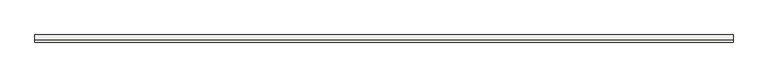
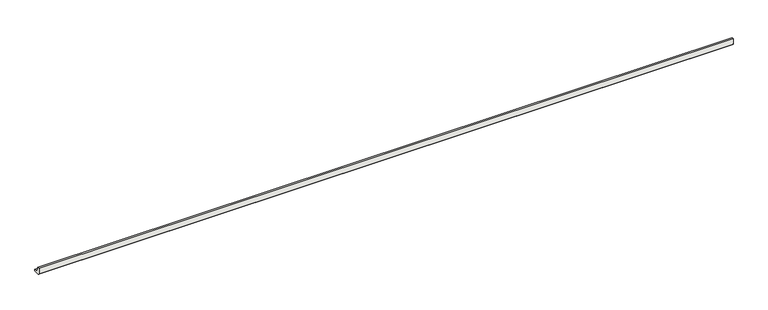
"""IFC4 building model written with IfcOpenShell, lengths in millimetres: slab geometry, ROSA GRES_188 : Pieza 188_Serena_Ocra_Anti-Slip."""

from ifc_helpers import new_model, si_unit, point, frame, frame_2d, origin, place, context, project, spatial, polyline, circle_curve, trimmed, segment, composite_curve, outline, extrude, source, transform, mapped, element, save


def slab_74978fe9(model_context):
    return source(origin(), model_context, "Body", "SweptSolid", [
        extrude(outline(composite_curve([segment(polyline([(0.0, 8.7114978), (0.0, 40.0), (9.9734114, 40.0)]), True, "CONTINUOUS"), segment(trimmed(circle_curve(frame_2d((39.9955547, 39.9955547)), 30.0221435), [point((9.9734114, 40.0))], [point((40.0, 9.9734114))], True, "CARTESIAN"), True, "CONTINUOUS"), segment(polyline([(40.0, 9.9734114), (40.0, 0.0), (8.7114978, 0.0), (0.0, 8.7114978)]), True, "CONTINUOUS")], self_intersect=False)), frame((0.0, 0.0, 0.0), z_axis=(1.0, 0.0, 0.0), x_axis=(0.0, 1.0, 0.0)), (0.0, 0.0, 1.0), 3907.7556837),
    ])


if __name__ == "__main__":
    model = new_model("IFC4")
    model_context = context("Model", 3, world=origin())
    ifc_project = project(units=[si_unit("LENGTHUNIT", "METRE", prefix="MILLI")], contexts=[model_context])
    site = spatial("IfcSite", under=ifc_project)
    building = spatial("IfcBuilding", under=site)
    placement = place(None, origin())
    slab_shape = slab_74978fe9(model_context)
    element("IfcSlab", 1, ObjectType="ROSA GRES_188 : Pieza 188_Serena_Ocra_Anti-Slip", at=placement, inside=building, context=model_context, shape_type="MappedRepresentation", body=[
        mapped(slab_shape, transform((0.0, 0.0, 0.0), x_axis=(1.0, 0.0, 0.0), y_axis=(0.0, 1.0, 0.0), z_axis=(0.0, 0.0, 1.0))),
    ])
    save(model, "model.ifc")
